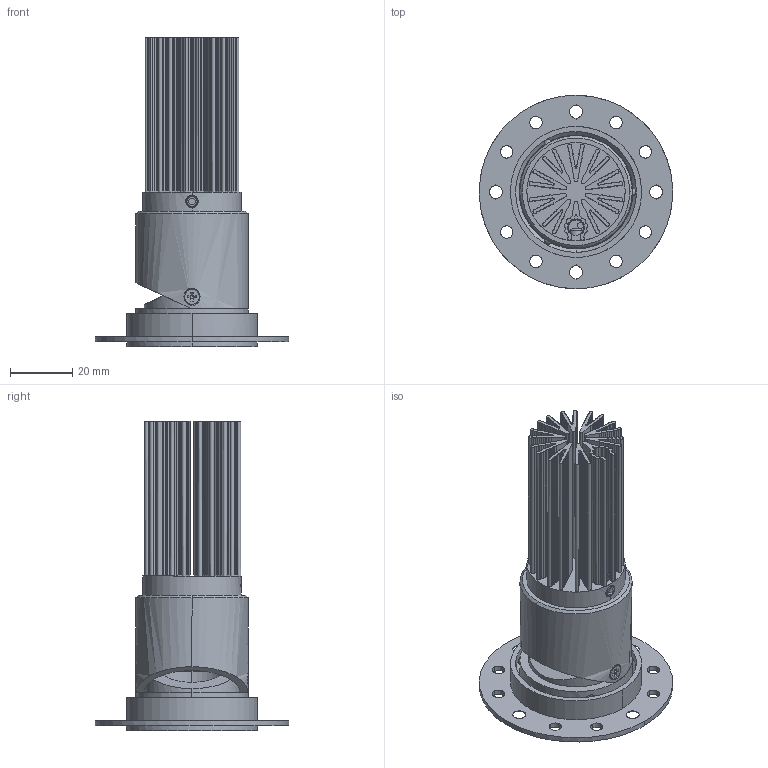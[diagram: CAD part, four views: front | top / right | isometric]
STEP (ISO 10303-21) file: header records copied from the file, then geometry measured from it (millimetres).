
FILE_DESCRIPTION(/* description */ (''),/* implementation_level */ '2;1');
FILE_NAME(/* name */ 'XR177.040',/* time_stamp */ '2024-09-02T17:57:03+02:00',/* author */ (''),/* organization */ (''),/* preprocessor_version */ 'ST-DEVELOPER v16.5',/* originating_system */ '',/* authorisation */ '');
FILE_SCHEMA (('AUTOMOTIVE_DESIGN'));
Length unit declared in the file: millimetre
Products named in the file (1): Document
Bounding box: 61.91 x 62 x 99.2 mm (x, y, z)
Volume: 46778.2 mm3; surface area: 48455.2 mm2
Topology: 15 solids, 15 shells, 996 faces, 2747 edges, 1782 vertices
Faces by surface type: bspline 804, plane 192
Entity records: 41537 total; most frequent: CARTESIAN_POINT 26665, ORIENTED_EDGE 5438, EDGE_CURVE 2719, VERTEX_POINT 1782, B_SPLINE_CURVE_WITH_KNOTS 1144, EDGE_LOOP 1075, ADVANCED_FACE 996, FACE_OUTER_BOUND 996
